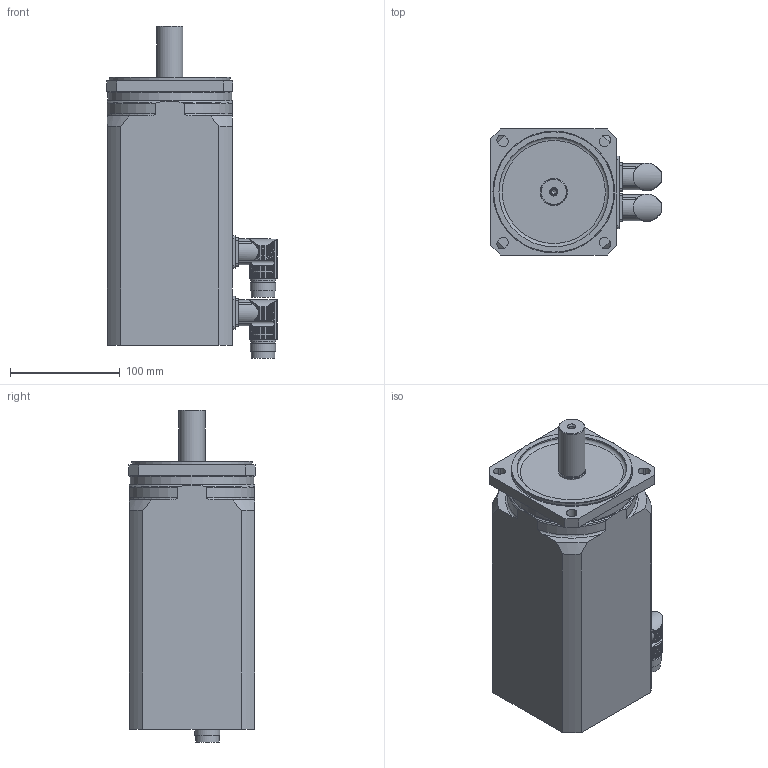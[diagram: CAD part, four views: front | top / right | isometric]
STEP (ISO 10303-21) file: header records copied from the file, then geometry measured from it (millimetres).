
FILE_DESCRIPTION(/* description */ (''),/* implementation_level */ '2;1');
FILE_NAME(/* name */ 'MR 7444-Ux-Nxxx-G01-A0D-MS',/* time_stamp */ '2007-07-13T09:50:00+01:00',/* author */ (''),/* organization */ ('ESR Pollmeier GmbH'),/* preprocessor_version */ 'ST-DEVELOPER v8',/* originating_system */ 'UNIGRAPHICS SOLUTIONS - UNIGRAPHICS 18.0',/* authorisation */ '');
FILE_SCHEMA (('AUTOMOTIVE_DESIGN { 1 2 10303 214 0 1 1 1 }'));
Length unit declared in the file: millimetre
Products named in the file (3): Winkelflanschdose_0; Rotor_SY4_0; MR7444-Ux-Nxxx-G01-A0D-MS_0
Assembly tree (3 placements, depth 2):
  MR7444-Ux-Nxxx-G01-A0D-MS_0
    Rotor_SY4_0
    Winkelflanschdose_0  x2
Bounding box: 155.49 x 115 x 302.65 mm (x, y, z)
Volume: 3117165 mm3; surface area: 156746.7 mm2
Topology: 4 solids, 4 shells, 427 faces, 1192 edges, 791 vertices
Faces by surface type: cylinder 320, plane 82, torus 15, cone 10
Full cylindrical faces by diameter (mm): 4.351 x1, 5.5 x1, 16 x2, 21 x2, 21.5 x2, 23 x4, 23.52 x1, 24 x1, 25 x1, 100 x1, 110 x1, 113 x1
Entity records: 8914 total; most frequent: CARTESIAN_POINT 2301, ORIENTED_EDGE 1382, DIRECTION 1304, EDGE_CURVE 691, AXIS2_PLACEMENT_3D 514, VERTEX_POINT 473, EDGE_LOOP 309, LINE 276
